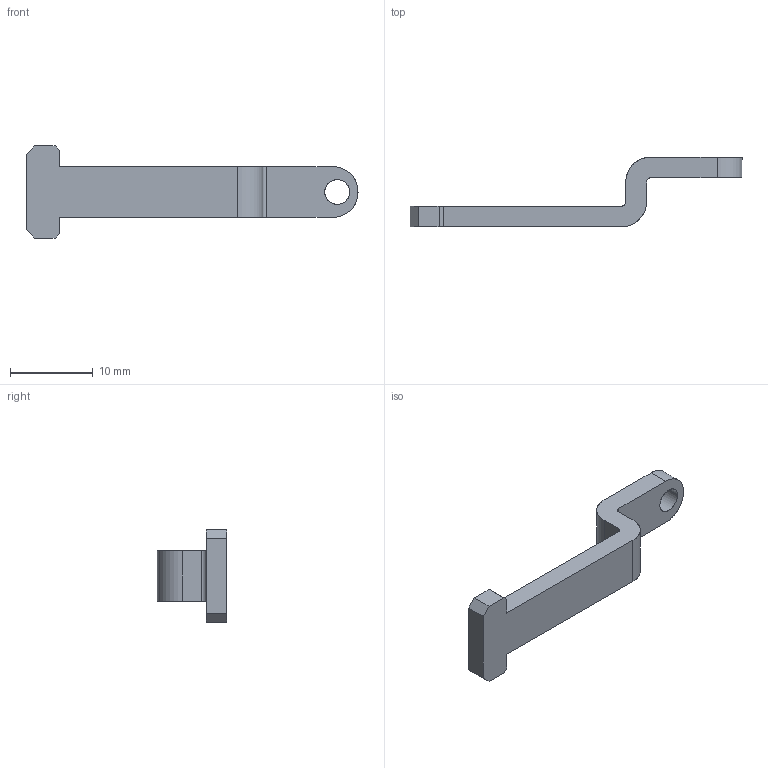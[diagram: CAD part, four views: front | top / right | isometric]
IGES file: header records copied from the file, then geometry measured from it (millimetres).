
Start section: SolidWorks IGES FILE using analytic representation for surfaces
Global section: file name: C:\Documents and Settings\lecoutey\Bureau\GP 31\30.060.10.IGS; native system: SolidWorks 2004 by SolidWorks Corporation; preprocessor: Version 5.3; author: lecoutey; date: 050329.144028; units: millimetre
Bounding box: 40 x 8.4 x 11.1 mm (x, y, z)
Surface area: 847.5 mm2 (no closed solid volume)
Topology: 0 solids, 0 shells, 26 faces, 272 edges, 272 vertices
Faces by surface type: bspline 18, revolution 8
